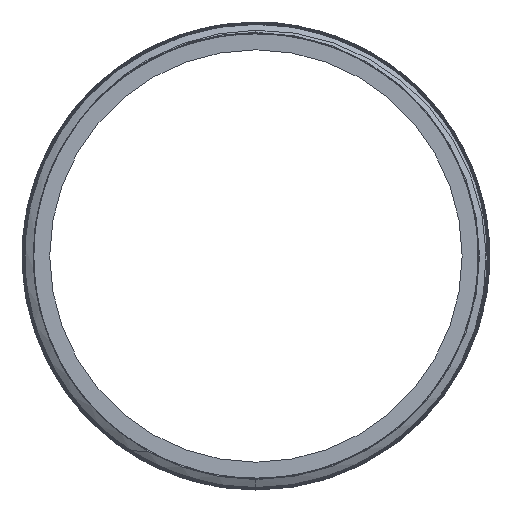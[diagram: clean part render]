
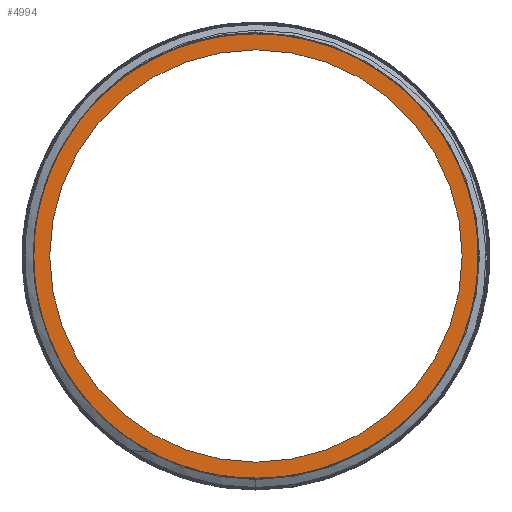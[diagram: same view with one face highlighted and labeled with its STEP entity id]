
A CAD part, left-side view. The second image highlights one B-rep face of the part: STEP entity #4994.
In plain terms, the highlighted planar face has unit normal (-1, 0, 0).
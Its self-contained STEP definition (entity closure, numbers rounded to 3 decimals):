
#183 = CIRCLE ( 'NONE', #5419, 16.1 ) ;
#189 = VERTEX_POINT ( 'NONE', #4985 ) ;
#211 = DIRECTION ( 'NONE',  ( 0., 0., -1. ) ) ;
#477 = EDGE_CURVE ( 'NONE', #6401, #7297, #7569, .T. ) ;
#605 = CARTESIAN_POINT ( 'NONE',  ( -500., 12.761, 9.715 ) ) ;
#633 = DIRECTION ( 'NONE',  ( -1., 0., 0. ) ) ;
#708 = EDGE_CURVE ( 'NONE', #8897, #1246, #944, .T. ) ;
#833 = PLANE ( 'NONE',  #6403 ) ;
#890 = EDGE_CURVE ( 'NONE', #4659, #9797, #183, .T. ) ;
#944 = B_SPLINE_CURVE_WITH_KNOTS ( 'NONE', 3,
 ( #2551, #4909, #7272, #4144, #3375, #6499 ),
 .UNSPECIFIED., .F., .F.,
 ( 4, 2, 4 ),
 ( 0., 0.001, 0.002 ),
 .UNSPECIFIED. ) ;
#971 = CARTESIAN_POINT ( 'NONE',  ( -500., 15.334, -4.73 ) ) ;
#989 = DIRECTION ( 'NONE',  ( 1., 0., 0. ) ) ;
#1015 = CARTESIAN_POINT ( 'NONE',  ( -500., 12.272, 10.393 ) ) ;
#1025 = CARTESIAN_POINT ( 'NONE',  ( -500., 13.934, 7.958 ) ) ;
#1074 = CARTESIAN_POINT ( 'NONE',  ( -500., 14.822, -6.216 ) ) ;
#1177 = AXIS2_PLACEMENT_3D ( 'NONE', #4646, #3778, #3828 ) ;
#1184 = B_SPLINE_CURVE_WITH_KNOTS ( 'NONE', 3,
 ( #4972, #3383, #1015, #4865 ),
 .UNSPECIFIED., .F., .F.,
 ( 4, 4 ),
 ( 0.011, 0.013 ),
 .UNSPECIFIED. ) ;
#1198 = CARTESIAN_POINT ( 'NONE',  ( -500., 9.715, -12.761 ) ) ;
#1226 = CARTESIAN_POINT ( 'NONE',  ( -500., 10.557, -12.12 ) ) ;
#1246 = VERTEX_POINT ( 'NONE', #2409 ) ;
#1267 = ORIENTED_EDGE ( 'NONE', *, *, #708, .T. ) ;
#1697 = CARTESIAN_POINT ( 'NONE',  ( -500., 0., 0. ) ) ;
#1796 = AXIS2_PLACEMENT_3D ( 'NONE', #6897, #9179, #7626 ) ;
#1851 = CARTESIAN_POINT ( 'NONE',  ( -500., 15.725, -3.195 ) ) ;
#1856 = CARTESIAN_POINT ( 'NONE',  ( -500., 0., -14.85 ) ) ;
#1961 = EDGE_CURVE ( 'NONE', #189, #5125, #1184, .T. ) ;
#2409 = CARTESIAN_POINT ( 'NONE',  ( -500., 7.749, -14.112 ) ) ;
#2551 = CARTESIAN_POINT ( 'NONE',  ( -500., 9.715, -12.761 ) ) ;
#2625 = CARTESIAN_POINT ( 'NONE',  ( -500., 12.761, 9.715 ) ) ;
#2809 = AXIS2_PLACEMENT_3D ( 'NONE', #5204, #633, #3674 ) ;
#2996 = B_SPLINE_CURVE_WITH_KNOTS ( 'NONE', 3,
 ( #2625, #8065, #4821, #1025, #4161, #7288, #4050, #7174, #8114, #3393, #9678, #3446, #8889, #3287, #3999, #1851, #8013, #971, #1074, #4104, #4212, #7344, #6571, #6663, #9824, #1226, #8261 ),
 .UNSPECIFIED., .F., .F.,
 ( 4, 2, 2, 2, 1, 2, 2, 2, 2, 2, 2, 2, 2, 4 ),
 ( 0., 0.002, 0.003, 0.005, 0.006, 0.008, 0.01, 0.013, 0.014, 0.016, 0.019, 0.021, 0.022, 0.025 ),
 .UNSPECIFIED. ) ;
#2999 = CARTESIAN_POINT ( 'NONE',  ( -500., 0., 14.85 ) ) ;
#3287 = CARTESIAN_POINT ( 'NONE',  ( -500., 16.032, -1.127 ) ) ;
#3360 = ORIENTED_EDGE ( 'NONE', *, *, #4042, .T. ) ;
#3375 = CARTESIAN_POINT ( 'NONE',  ( -500., 8.092, -13.912 ) ) ;
#3383 = CARTESIAN_POINT ( 'NONE',  ( -500., 11.736, 11.022 ) ) ;
#3393 = CARTESIAN_POINT ( 'NONE',  ( -500., 15.753, 3.057 ) ) ;
#3446 = CARTESIAN_POINT ( 'NONE',  ( -500., 15.977, 1.497 ) ) ;
#3674 = DIRECTION ( 'NONE',  ( 0., 0., 1. ) ) ;
#3778 = DIRECTION ( 'NONE',  ( -1., 0., 0. ) ) ;
#3828 = DIRECTION ( 'NONE',  ( 0., 0., 1. ) ) ;
#3999 = CARTESIAN_POINT ( 'NONE',  ( -500., 15.821, -2.68 ) ) ;
#4041 = AXIS2_PLACEMENT_3D ( 'NONE', #1697, #9369, #5603 ) ;
#4042 = EDGE_CURVE ( 'NONE', #5125, #8897, #2996, .T. ) ;
#4045 = ORIENTED_EDGE ( 'NONE', *, *, #890, .T. ) ;
#4050 = CARTESIAN_POINT ( 'NONE',  ( -500., 14.859, 6.06 ) ) ;
#4104 = CARTESIAN_POINT ( 'NONE',  ( -500., 14.387, -7.165 ) ) ;
#4144 = CARTESIAN_POINT ( 'NONE',  ( -500., 8.429, -13.698 ) ) ;
#4161 = CARTESIAN_POINT ( 'NONE',  ( -500., 14.188, 7.497 ) ) ;
#4176 = FACE_OUTER_BOUND ( 'NONE', #7730, .T. ) ;
#4212 = CARTESIAN_POINT ( 'NONE',  ( -500., 13.595, -8.524 ) ) ;
#4325 = CARTESIAN_POINT ( 'NONE',  ( -500., 0., 0. ) ) ;
#4646 = CARTESIAN_POINT ( 'NONE',  ( -500., 0., 0. ) ) ;
#4659 = VERTEX_POINT ( 'NONE', #7761 ) ;
#4821 = CARTESIAN_POINT ( 'NONE',  ( -500., 13.381, 8.856 ) ) ;
#4865 = CARTESIAN_POINT ( 'NONE',  ( -500., 12.761, 9.715 ) ) ;
#4909 = CARTESIAN_POINT ( 'NONE',  ( -500., 9.404, -13.01 ) ) ;
#4972 = CARTESIAN_POINT ( 'NONE',  ( -500., 11.157, 11.607 ) ) ;
#4985 = CARTESIAN_POINT ( 'NONE',  ( -500., 11.157, 11.607 ) ) ;
#4994 = ADVANCED_FACE ( 'NONE', ( #4998, #4176 ), #833, .F. ) ;
#4998 = FACE_BOUND ( 'NONE', #8087, .T. ) ;
#5076 = CARTESIAN_POINT ( 'NONE',  ( -500., 0., 16.1 ) ) ;
#5125 = VERTEX_POINT ( 'NONE', #605 ) ;
#5204 = CARTESIAN_POINT ( 'NONE',  ( -500., 0., 0. ) ) ;
#5398 = EDGE_CURVE ( 'NONE', #1246, #4659, #5909, .T. ) ;
#5419 = AXIS2_PLACEMENT_3D ( 'NONE', #4325, #6043, #9096 ) ;
#5603 = DIRECTION ( 'NONE',  ( 0., 0., 1. ) ) ;
#5635 = ORIENTED_EDGE ( 'NONE', *, *, #1961, .T. ) ;
#5909 = CIRCLE ( 'NONE', #2809, 16.1 ) ;
#5936 = ORIENTED_EDGE ( 'NONE', *, *, #8307, .T. ) ;
#6043 = DIRECTION ( 'NONE',  ( -1., 0., 0. ) ) ;
#6124 = ORIENTED_EDGE ( 'NONE', *, *, #477, .F. ) ;
#6401 = VERTEX_POINT ( 'NONE', #1856 ) ;
#6403 = AXIS2_PLACEMENT_3D ( 'NONE', #8904, #989, #211 ) ;
#6499 = CARTESIAN_POINT ( 'NONE',  ( -500., 7.749, -14.112 ) ) ;
#6501 = CIRCLE ( 'NONE', #4041, 16.1 ) ;
#6571 = CARTESIAN_POINT ( 'NONE',  ( -500., 12.689, -9.823 ) ) ;
#6663 = CARTESIAN_POINT ( 'NONE',  ( -500., 12.361, -10.232 ) ) ;
#6739 = EDGE_CURVE ( 'NONE', #7297, #6401, #9016, .T. ) ;
#6897 = CARTESIAN_POINT ( 'NONE',  ( -500., 0., 0. ) ) ;
#7174 = CARTESIAN_POINT ( 'NONE',  ( -500., 15.223, 5.076 ) ) ;
#7272 = CARTESIAN_POINT ( 'NONE',  ( -500., 9.085, -13.248 ) ) ;
#7288 = CARTESIAN_POINT ( 'NONE',  ( -500., 14.65, 6.548 ) ) ;
#7297 = VERTEX_POINT ( 'NONE', #2999 ) ;
#7344 = CARTESIAN_POINT ( 'NONE',  ( -500., 13.306, -8.969 ) ) ;
#7569 = CIRCLE ( 'NONE', #1177, 14.85 ) ;
#7626 = DIRECTION ( 'NONE',  ( 0., 0., 1. ) ) ;
#7730 = EDGE_LOOP ( 'NONE', ( #8854, #4045, #5936, #5635, #3360, #1267 ) ) ;
#7761 = CARTESIAN_POINT ( 'NONE',  ( -500., 0., -16.1 ) ) ;
#8013 = CARTESIAN_POINT ( 'NONE',  ( -500., 15.482, -4.221 ) ) ;
#8065 = CARTESIAN_POINT ( 'NONE',  ( -500., 13.082, 9.294 ) ) ;
#8087 = EDGE_LOOP ( 'NONE', ( #8265, #6124 ) ) ;
#8114 = CARTESIAN_POINT ( 'NONE',  ( -500., 15.537, 4.079 ) ) ;
#8261 = CARTESIAN_POINT ( 'NONE',  ( -500., 9.715, -12.761 ) ) ;
#8265 = ORIENTED_EDGE ( 'NONE', *, *, #6739, .F. ) ;
#8307 = EDGE_CURVE ( 'NONE', #9797, #189, #6501, .T. ) ;
#8854 = ORIENTED_EDGE ( 'NONE', *, *, #5398, .T. ) ;
#8889 = CARTESIAN_POINT ( 'NONE',  ( -500., 16.073, -0.083 ) ) ;
#8897 = VERTEX_POINT ( 'NONE', #1198 ) ;
#8904 = CARTESIAN_POINT ( 'NONE',  ( -500., 14.85, 0. ) ) ;
#9016 = CIRCLE ( 'NONE', #1796, 14.85 ) ;
#9096 = DIRECTION ( 'NONE',  ( 0., 0., 1. ) ) ;
#9179 = DIRECTION ( 'NONE',  ( -1., 0., 0. ) ) ;
#9369 = DIRECTION ( 'NONE',  ( -1., 0., 0. ) ) ;
#9678 = CARTESIAN_POINT ( 'NONE',  ( -500., 15.919, 2.023 ) ) ;
#9797 = VERTEX_POINT ( 'NONE', #5076 ) ;
#9824 = CARTESIAN_POINT ( 'NONE',  ( -500., 11.323, -11.407 ) ) ;
